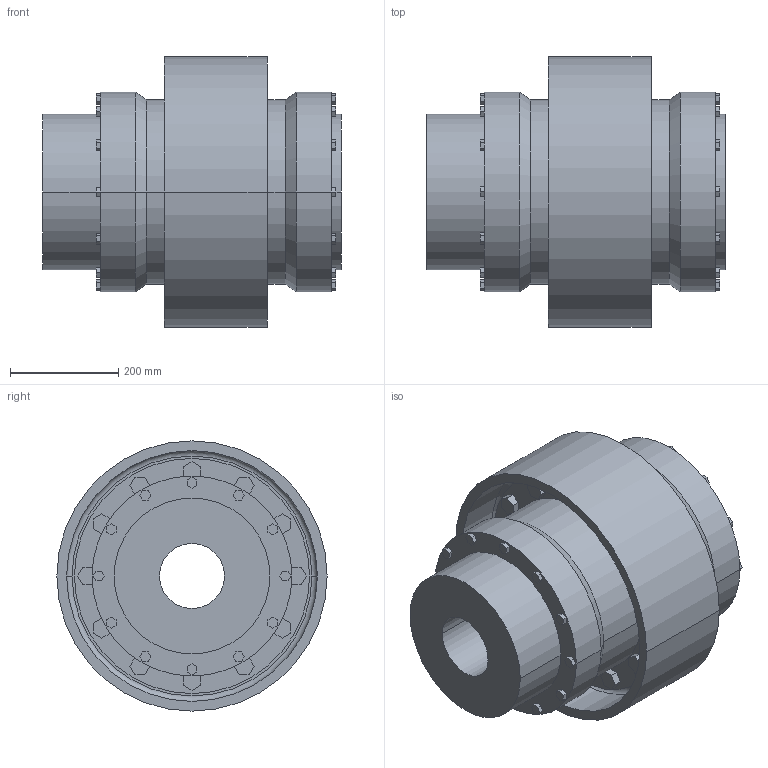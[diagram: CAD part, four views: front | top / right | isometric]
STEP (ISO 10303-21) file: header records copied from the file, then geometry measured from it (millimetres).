
FILE_DESCRIPTION((''),'2;1');
FILE_NAME('A19735100-0_ASM','2019-05-23T',('AB_Roschiwal'),('RENK AG'),'PRO/ENGINEER BY PARAMETRIC TECHNOLOGY CORPORATION, 2015440','PRO/ENGINEER BY PARAMETRIC TECHNOLOGY CORPORATION, 2015440','');
FILE_SCHEMA(('CONFIG_CONTROL_DESIGN'));
Length unit declared in the file: millimetre
Products named in the file (4): SBKD180_GEHAEUSE; SBKD180_NABE; SBKD180_BREMSSCHEIBE; A19735100-0_ASM
Assembly tree (4 placements, depth 2):
  A19735100-0_ASM
    SBKD180_GEHAEUSE
    SBKD180_NABE  x2
    SBKD180_BREMSSCHEIBE
Bounding box: 552 x 500 x 500 mm (x, y, z)
Volume: 43878500.4 mm3; surface area: 2895663.5 mm2
Topology: 4 solids, 4 shells, 474 faces, 1164 edges, 772 vertices
Faces by surface type: plane 370, cylinder 96, cone 4, torus 4
Entity records: 13708 total; most frequent: CARTESIAN_POINT 2366, ORIENTED_EDGE 2280, DIRECTION 2264, EDGE_CURVE 1140, VECTOR 956, LINE 956, VERTEX_POINT 756, AXIS2_PLACEMENT_3D 654
